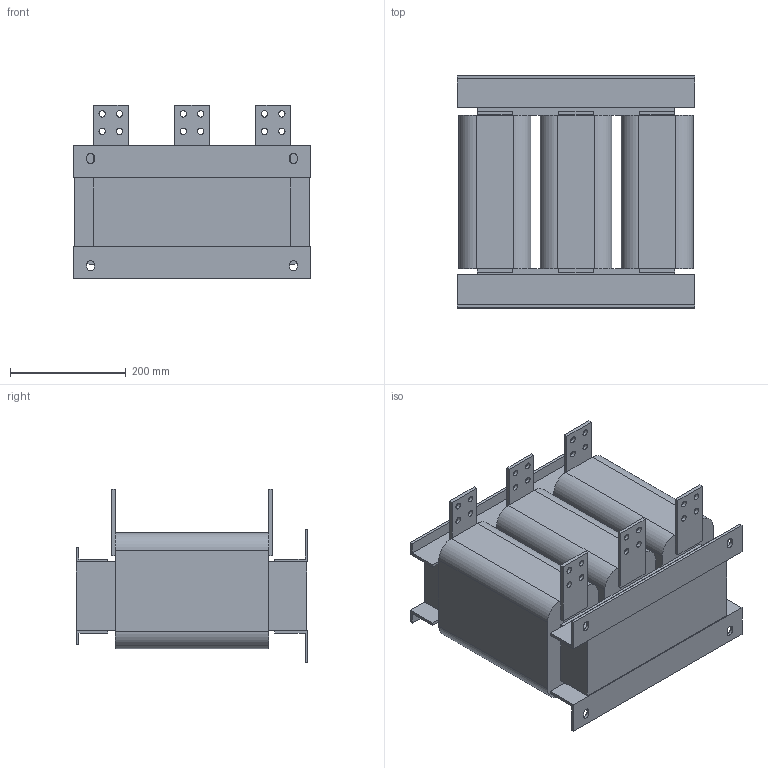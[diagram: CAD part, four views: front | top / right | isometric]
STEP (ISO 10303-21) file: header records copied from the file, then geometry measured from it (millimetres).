
FILE_DESCRIPTION(/* description */ (''),/* implementation_level */ '2;1');
FILE_NAME(/* name */ 'E:\Работа\Веда МК (Данфосс)\!Текущие задачи\2024.08.30 3D модели\Дроссели\ACO 1-проц 660 В\STP\ACO-C-0860-T6.stp',/* time_stamp */ '2024-11-02T15:29:17+04:00',/* author */ ('Александр (огранич)'),/* organization */ (''),/* preprocessor_version */ 'ST-DEVELOPER v18.1',/* originating_system */ 'Autodesk Inventor 2021',/* authorisation */ '');
FILE_SCHEMA (('AUTOMOTIVE_DESIGN { 1 0 10303 214 3 1 1 }'));
Length unit declared in the file: millimetre
Products named in the file (1): ACO-0015-T4-4
Bounding box: 410 x 400 x 299.5 mm (x, y, z)
Volume: 25418830.1 mm3; surface area: 1067140.2 mm2
Topology: 3 solids, 3 shells, 154 faces, 436 edges, 284 vertices
Faces by surface type: plane 110, cylinder 44
Full cylindrical faces by diameter (mm): 11 x24
Entity records: 5119 total; most frequent: CARTESIAN_POINT 875, ORIENTED_EDGE 872, DIRECTION 846, EDGE_CURVE 436, LINE 336, VECTOR 336, VERTEX_POINT 284, AXIS2_PLACEMENT_3D 255
